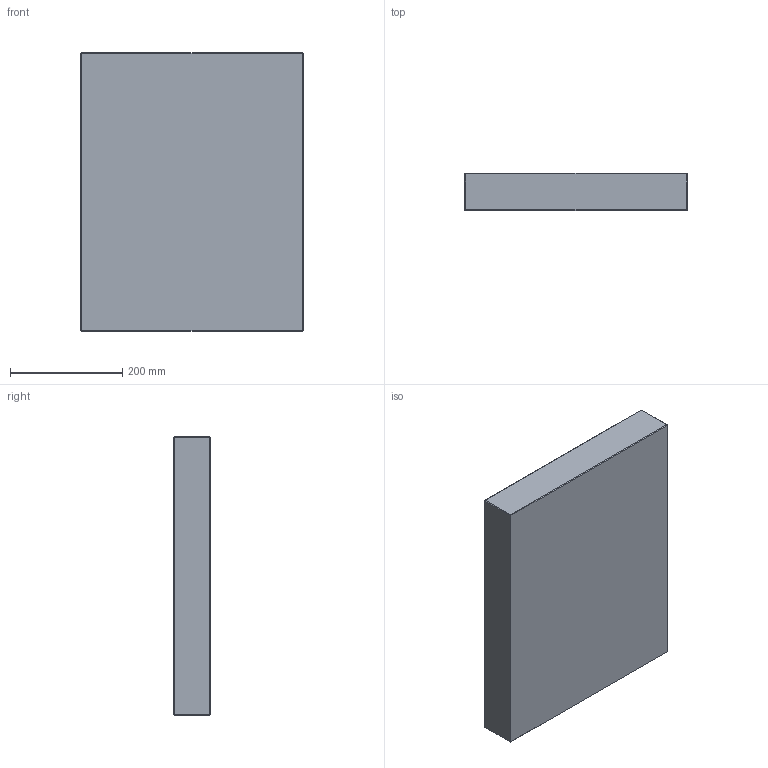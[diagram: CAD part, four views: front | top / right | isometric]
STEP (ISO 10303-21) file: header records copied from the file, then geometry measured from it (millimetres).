
FILE_DESCRIPTION (( 'STEP AP214' ), '1' );
FILE_NAME ('PC-P-396x496x66.STEP', '2020-04-01T10:41:20', ( 'August' ), ( '' ), 'SwSTEP 2.0', 'SolidWorks 2018', '' );
FILE_SCHEMA (( 'AUTOMOTIVE_DESIGN' ));
Length unit declared in the file: millimetre
Products named in the file (1): PC-P-396x496x66
Bounding box: 396 x 66 x 496 mm (x, y, z)
Volume: 12961545.3 mm3; surface area: 508328.3 mm2
Topology: 1 solids, 1 shells, 26 faces, 48 edges, 24 vertices
Faces by surface type: plane 26
Entity records: 634 total; most frequent: DIRECTION 102, CARTESIAN_POINT 99, ORIENTED_EDGE 96, EDGE_CURVE 48, VECTOR 48, LINE 48, AXIS2_PLACEMENT_3D 27, PLANE 26
